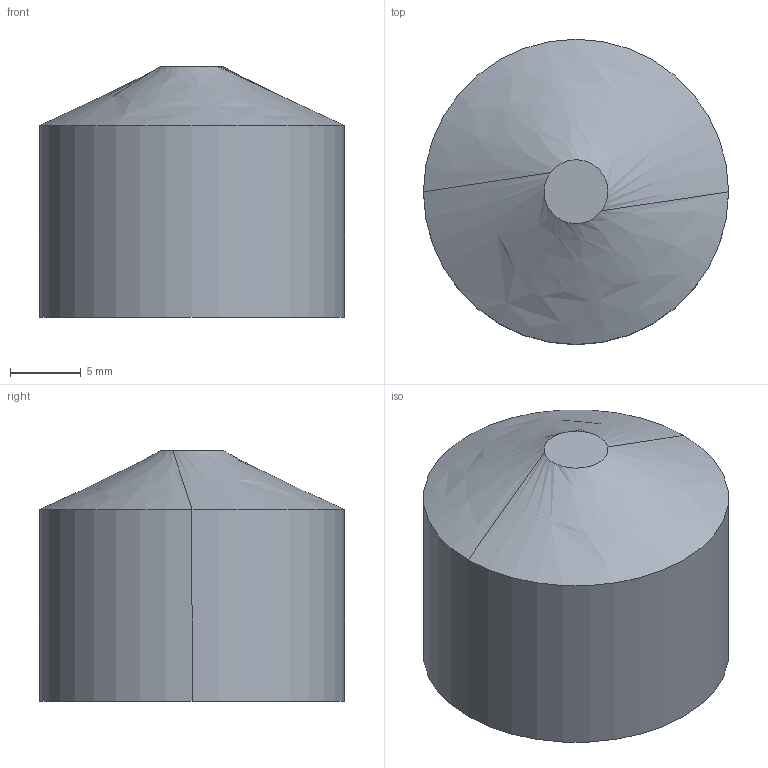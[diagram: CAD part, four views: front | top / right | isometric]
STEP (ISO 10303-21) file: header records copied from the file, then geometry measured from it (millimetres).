
FILE_DESCRIPTION (( 'STEP AP214' ), '1' );
FILE_NAME ('20钢棒端盖.STEP', '2019-10-31T07:55:19', ( '微软用户' ), ( '微软中国' ), 'SwSTEP 2.0', 'SolidWorks 2016', '' );
FILE_SCHEMA (( 'AUTOMOTIVE_DESIGN' ));
Length unit declared in the file: millimetre
Products named in the file (1): 20詩堵傷裔
Bounding box: 21.5 x 21.5 x 17.65 mm (x, y, z)
Volume: 1880.9 mm3; surface area: 2460.2 mm2
Topology: 1 solids, 1 shells, 9 faces, 16 edges, 10 vertices
Faces by surface type: cylinder 4, plane 3, bspline 2
Entity records: 274 total; most frequent: CARTESIAN_POINT 64, DIRECTION 40, ORIENTED_EDGE 32, AXIS2_PLACEMENT_3D 18, EDGE_CURVE 16, VERTEX_POINT 10, CIRCLE 10, EDGE_LOOP 10
